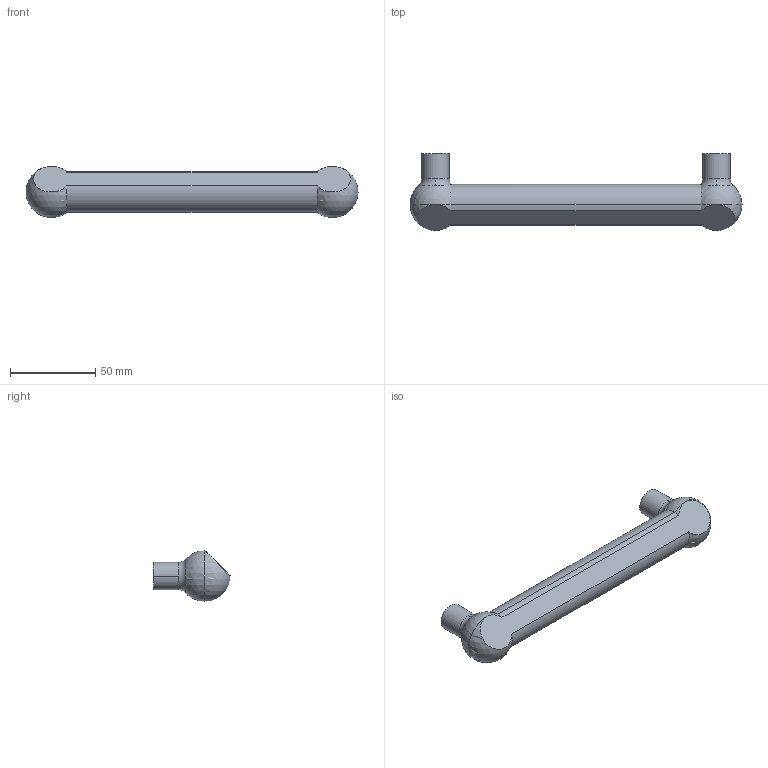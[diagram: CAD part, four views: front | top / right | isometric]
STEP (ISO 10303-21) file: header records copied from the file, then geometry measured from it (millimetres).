
FILE_DESCRIPTION( ( '' ), '1' );
FILE_NAME( 'D:/1.AUTOCAD EXPORT/Group 10/sheet_10_1/9105765.stp', '2013-10-18T08:17:04', ( '' ), ( '' ), ' ', ' ', ' ' );
FILE_SCHEMA( ( 'automotive_design' ) );
Length unit declared in the file: millimetre
Products named in the file (1): 1
Bounding box: 195 x 45 x 30 mm (x, y, z)
Volume: 95028 mm3; surface area: 17306 mm2
Topology: 1 solids, 1 shells, 26 faces, 72 edges, 40 vertices
Faces by surface type: cylinder 11, sphere 6, plane 5, torus 4
Entity records: 1548 total; most frequent: DIRECTION 162, CARTESIAN_POINT 157, STYLED_ITEM 129, PRESENTATION_STYLE_ASSIGNMENT 129, COLOUR_RGB 129, ORIENTED_EDGE 124, AXIS2_PLACEMENT_3D 75, EDGE_CURVE 62
